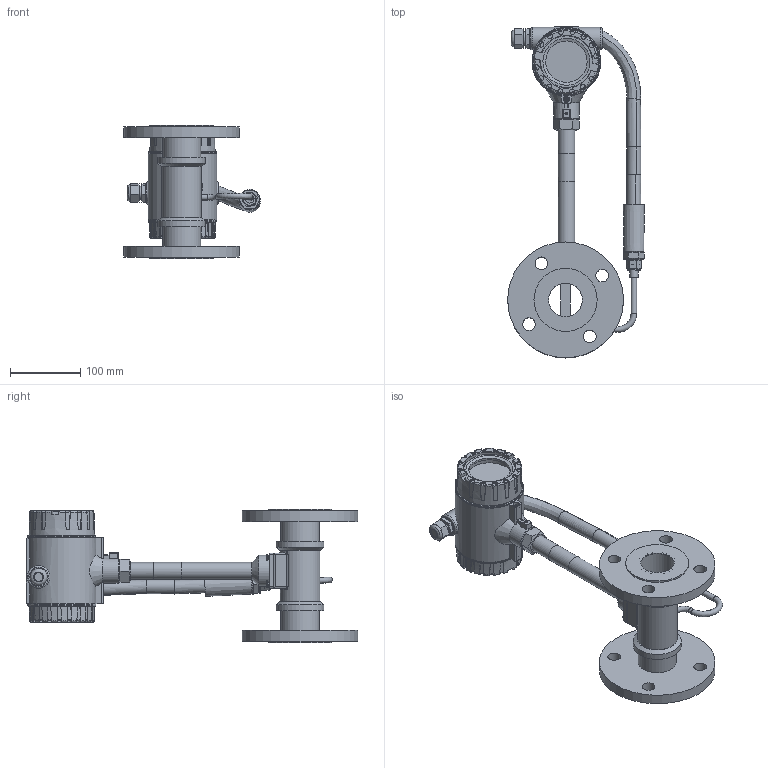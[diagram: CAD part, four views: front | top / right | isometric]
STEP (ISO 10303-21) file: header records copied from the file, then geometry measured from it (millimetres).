
FILE_DESCRIPTION(/* description */ ('STEP AP214'),/* implementation_level */ '2;1');
FILE_NAME(/* name */ 'DN50 vortex.step',/* time_stamp */ '2025-09-10T17:45:29+03:00',/* author */ (''),/* organization */ (''),/* preprocessor_version */ 'ST-DEVELOPER v20.1',/* originating_system */ 'Autodesk Translation Framework v14.10.0.0',/* authorisation */ '');
FILE_SCHEMA (('AUTOMOTIVE_DESIGN { 1 0 10303 214 3 1 1 }'));
Length unit declared in the file: millimetre
Products named in the file (1): DN100法兰连接装配体
Bounding box: 194.74 x 472.74 x 190.01 mm (x, y, z)
Volume: 1415612.7 mm3; surface area: 436732.2 mm2
Topology: 23 solids, 24 shells, 910 faces, 2252 edges, 1426 vertices
Faces by surface type: plane 513, cylinder 247, torus 65, cone 53, bspline 28, sphere 4
Full cylindrical faces by diameter (mm): 3.2 x1, 3.3 x1, 3.65 x2, 4.2 x10, 6 x12, 8 x4, 8.7 x2, 9 x1, 10 x1, 12 x1, 12.4 x1, 13 x1, 14 x1, 16 x2, 17.727 x4, 18 x13, 19 x7, 19.2 x2, 20 x1, 20.6 x1, 20.655 x1, 22.6 x1, 24 x2, 24.2 x1, 28 x2, 31.9 x2, 38 x1, 44 x1, 48 x3, 54.548 x2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
Entity records: 31530 total; most frequent: CARTESIAN_POINT 9457, DIRECTION 4788, ORIENTED_EDGE 4482, EDGE_CURVE 2241, AXIS2_PLACEMENT_3D 1821, VERTEX_POINT 1426, LINE 1146, VECTOR 1146
